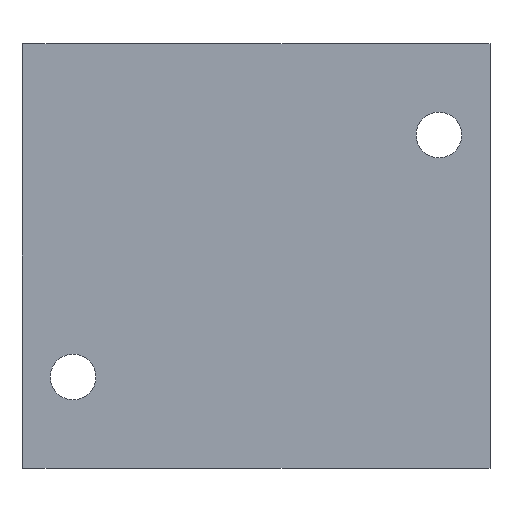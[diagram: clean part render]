
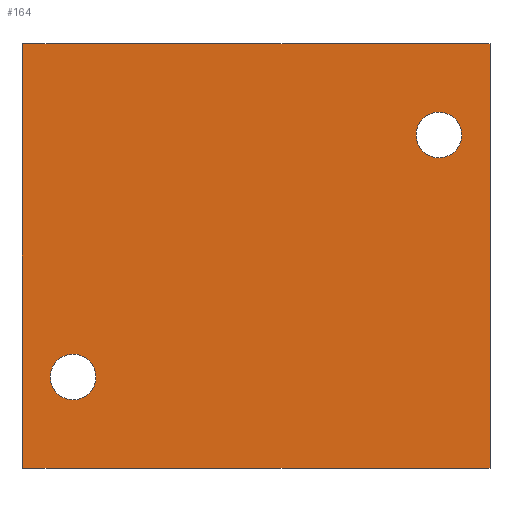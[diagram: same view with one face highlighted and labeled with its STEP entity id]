
A CAD part, front view. The second image highlights one B-rep face of the part: STEP entity #164.
In plain terms, the highlighted planar face has unit normal (0, -1, 0).
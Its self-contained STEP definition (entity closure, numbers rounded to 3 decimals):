
#8 = ORIENTED_EDGE ( 'NONE', *, *, #1044, .F. ) ;
#20 = CARTESIAN_POINT ( 'NONE',  ( 43.5, -30., -39.5 ) ) ;
#38 = PLANE ( 'NONE',  #912 ) ;
#49 = FACE_OUTER_BOUND ( 'NONE', #1525, .T. ) ;
#60 = LINE ( 'NONE', #1054, #605 ) ;
#84 = VERTEX_POINT ( 'NONE', #1388 ) ;
#102 = CARTESIAN_POINT ( 'NONE',  ( -43.5, -30., 39.5 ) ) ;
#105 = CARTESIAN_POINT ( 'NONE',  ( 34., -30., 18.25 ) ) ;
#126 = LINE ( 'NONE', #1456, #273 ) ;
#138 = DIRECTION ( 'NONE',  ( 0., 1., 0. ) ) ;
#139 = EDGE_CURVE ( 'NONE', #355, #248, #1274, .T. ) ;
#153 = ORIENTED_EDGE ( 'NONE', *, *, #967, .T. ) ;
#164 = ADVANCED_FACE ( 'NONE', ( #502, #1145, #49 ), #38, .F. ) ;
#165 = CARTESIAN_POINT ( 'NONE',  ( -43.5, -30., 39.5 ) ) ;
#193 = VERTEX_POINT ( 'NONE', #1315 ) ;
#204 = VECTOR ( 'NONE', #417, 1000. ) ;
#237 = DIRECTION ( 'NONE',  ( 0., 0., -1. ) ) ;
#248 = VERTEX_POINT ( 'NONE', #799 ) ;
#265 = DIRECTION ( 'NONE',  ( 0., 0., 1. ) ) ;
#270 = AXIS2_PLACEMENT_3D ( 'NONE', #281, #654, #1020 ) ;
#273 = VECTOR ( 'NONE', #1115, 1000. ) ;
#281 = CARTESIAN_POINT ( 'NONE',  ( -34., -30., -22.5 ) ) ;
#349 = CARTESIAN_POINT ( 'NONE',  ( 34., -30., 26.75 ) ) ;
#355 = VERTEX_POINT ( 'NONE', #102 ) ;
#384 = ORIENTED_EDGE ( 'NONE', *, *, #427, .F. ) ;
#392 = CIRCLE ( 'NONE', #732, 4.25 ) ;
#399 = CIRCLE ( 'NONE', #960, 4.25 ) ;
#417 = DIRECTION ( 'NONE',  ( 0., 0., -1. ) ) ;
#427 = EDGE_CURVE ( 'NONE', #1126, #1189, #586, .T. ) ;
#493 = VECTOR ( 'NONE', #1156, 1000. ) ;
#498 = ORIENTED_EDGE ( 'NONE', *, *, #808, .F. ) ;
#502 = FACE_BOUND ( 'NONE', #1244, .T. ) ;
#515 = EDGE_CURVE ( 'NONE', #84, #193, #399, .T. ) ;
#531 = CARTESIAN_POINT ( 'NONE',  ( -43.5, -30., 39.5 ) ) ;
#535 = ORIENTED_EDGE ( 'NONE', *, *, #139, .T. ) ;
#586 = CIRCLE ( 'NONE', #680, 4.25 ) ;
#605 = VECTOR ( 'NONE', #949, 1000. ) ;
#649 = EDGE_CURVE ( 'NONE', #1189, #1126, #392, .T. ) ;
#654 = DIRECTION ( 'NONE',  ( 0., -1., 0. ) ) ;
#680 = AXIS2_PLACEMENT_3D ( 'NONE', #714, #1457, #237 ) ;
#697 = ORIENTED_EDGE ( 'NONE', *, *, #515, .F. ) ;
#714 = CARTESIAN_POINT ( 'NONE',  ( 34., -30., 22.5 ) ) ;
#732 = AXIS2_PLACEMENT_3D ( 'NONE', #1404, #778, #792 ) ;
#762 = EDGE_CURVE ( 'NONE', #193, #84, #1149, .T. ) ;
#768 = DIRECTION ( 'NONE',  ( 0., 0., -1. ) ) ;
#778 = DIRECTION ( 'NONE',  ( 0., -1., 0. ) ) ;
#792 = DIRECTION ( 'NONE',  ( 0., 0., -1. ) ) ;
#799 = CARTESIAN_POINT ( 'NONE',  ( -43.5, -30., -39.5 ) ) ;
#808 = EDGE_CURVE ( 'NONE', #355, #1248, #60, .T. ) ;
#809 = LINE ( 'NONE', #1169, #204 ) ;
#856 = ORIENTED_EDGE ( 'NONE', *, *, #649, .F. ) ;
#912 = AXIS2_PLACEMENT_3D ( 'NONE', #531, #138, #265 ) ;
#949 = DIRECTION ( 'NONE',  ( 1., 0., 0. ) ) ;
#960 = AXIS2_PLACEMENT_3D ( 'NONE', #1485, #978, #768 ) ;
#967 = EDGE_CURVE ( 'NONE', #248, #1042, #126, .T. ) ;
#972 = EDGE_LOOP ( 'NONE', ( #1544, #697 ) ) ;
#978 = DIRECTION ( 'NONE',  ( 0., -1., 0. ) ) ;
#1020 = DIRECTION ( 'NONE',  ( 0., 0., -1. ) ) ;
#1042 = VERTEX_POINT ( 'NONE', #20 ) ;
#1044 = EDGE_CURVE ( 'NONE', #1248, #1042, #809, .T. ) ;
#1054 = CARTESIAN_POINT ( 'NONE',  ( -43.5, -30., 39.5 ) ) ;
#1094 = CARTESIAN_POINT ( 'NONE',  ( 43.5, -30., 39.5 ) ) ;
#1115 = DIRECTION ( 'NONE',  ( 1., 0., 0. ) ) ;
#1126 = VERTEX_POINT ( 'NONE', #349 ) ;
#1145 = FACE_BOUND ( 'NONE', #972, .T. ) ;
#1149 = CIRCLE ( 'NONE', #270, 4.25 ) ;
#1156 = DIRECTION ( 'NONE',  ( 0., 0., -1. ) ) ;
#1169 = CARTESIAN_POINT ( 'NONE',  ( 43.5, -30., 39.5 ) ) ;
#1189 = VERTEX_POINT ( 'NONE', #105 ) ;
#1244 = EDGE_LOOP ( 'NONE', ( #856, #384 ) ) ;
#1248 = VERTEX_POINT ( 'NONE', #1094 ) ;
#1274 = LINE ( 'NONE', #165, #493 ) ;
#1315 = CARTESIAN_POINT ( 'NONE',  ( -34., -30., -26.75 ) ) ;
#1388 = CARTESIAN_POINT ( 'NONE',  ( -34., -30., -18.25 ) ) ;
#1404 = CARTESIAN_POINT ( 'NONE',  ( 34., -30., 22.5 ) ) ;
#1456 = CARTESIAN_POINT ( 'NONE',  ( -43.5, -30., -39.5 ) ) ;
#1457 = DIRECTION ( 'NONE',  ( 0., -1., 0. ) ) ;
#1485 = CARTESIAN_POINT ( 'NONE',  ( -34., -30., -22.5 ) ) ;
#1525 = EDGE_LOOP ( 'NONE', ( #153, #8, #498, #535 ) ) ;
#1544 = ORIENTED_EDGE ( 'NONE', *, *, #762, .F. ) ;
